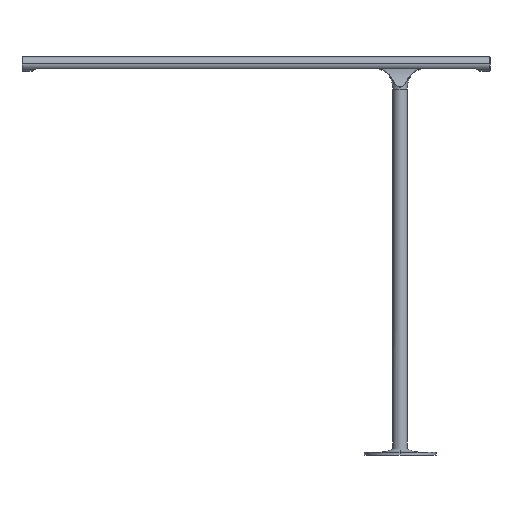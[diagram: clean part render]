
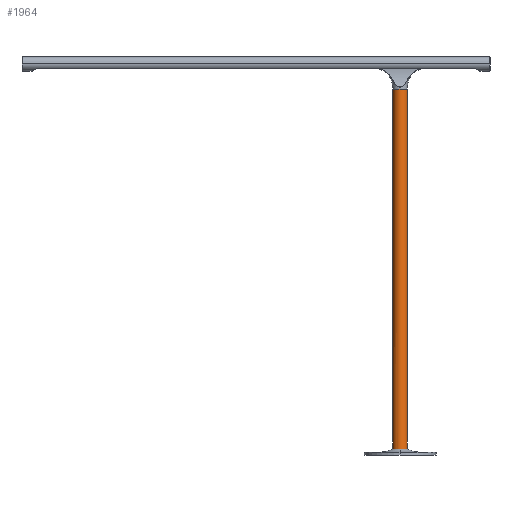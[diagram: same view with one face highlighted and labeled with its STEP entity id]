
A CAD part, top view. The second image highlights one B-rep face of the part: STEP entity #1964.
In plain terms, the highlighted cylindrical face has radius 8 mm (diameter 16 mm), a partial arc.
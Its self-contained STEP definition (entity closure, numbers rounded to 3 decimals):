
#19 = EDGE_CURVE ( 'NONE', #4473, #5512, #605, .T. ) ;
#29 = CARTESIAN_POINT ( 'NONE',  ( 41.72, 419.5, 5.562 ) ) ;
#181 = EDGE_CURVE ( 'NONE', #4473, #6148, #1132, .T. ) ;
#336 = CIRCLE ( 'NONE', #1421, 8. ) ;
#367 = CARTESIAN_POINT ( 'NONE',  ( 35., 419.5, 8. ) ) ;
#375 = CARTESIAN_POINT ( 'NONE',  ( 28.603, 419.5, 4.916 ) ) ;
#383 = DIRECTION ( 'NONE',  ( 0., 0., 1. ) ) ;
#412 = VERTEX_POINT ( 'NONE', #2453 ) ;
#479 = CARTESIAN_POINT ( 'NONE',  ( 27., 427.127, 0. ) ) ;
#547 = EDGE_CURVE ( 'NONE', #412, #2391, #336, .T. ) ;
#582 = VECTOR ( 'NONE', #1124, 1000. ) ;
#605 = B_SPLINE_CURVE_WITH_KNOTS ( 'NONE', 3,
 ( #367, #4054, #5083, #3589, #4115, #375, #6155, #1491, #5645, #6107 ),
 .UNSPECIFIED., .F., .F.,
 ( 4, 2, 2, 2, 4 ),
 ( 0., 0.125, 0.25, 0.375, 0.5 ),
 .UNSPECIFIED. ) ;
#614 = CARTESIAN_POINT ( 'NONE',  ( 35., 427.127, 0. ) ) ;
#657 = ORIENTED_EDGE ( 'NONE', *, *, #547, .F. ) ;
#1124 = DIRECTION ( 'NONE',  ( 0., -1., 0. ) ) ;
#1132 = B_SPLINE_CURVE_WITH_KNOTS ( 'NONE', 3,
 ( #2030, #4148, #29, #4212, #6366, #3139, #6307, #4733 ),
 .UNSPECIFIED., .F., .F.,
 ( 4, 1, 1, 1, 1, 4 ),
 ( 0.75, 0.95, 0.963, 0.975, 0.988, 1. ),
 .UNSPECIFIED. ) ;
#1199 = CARTESIAN_POINT ( 'NONE',  ( 35., 419.5, 8. ) ) ;
#1265 = DIRECTION ( 'NONE',  ( 0., -1., 0. ) ) ;
#1268 = DIRECTION ( 'NONE',  ( 1., 0., 0. ) ) ;
#1421 = AXIS2_PLACEMENT_3D ( 'NONE', #4600, #4128, #383 ) ;
#1491 = CARTESIAN_POINT ( 'NONE',  ( 27.208, 419.5, 2.094 ) ) ;
#1829 = DIRECTION ( 'NONE',  ( 0., 0., 1. ) ) ;
#1964 = ADVANCED_FACE ( 'NONE', ( #3211 ), #4859, .T. ) ;
#2030 = CARTESIAN_POINT ( 'NONE',  ( 35., 419.5, 8. ) ) ;
#2088 = LINE ( 'NONE', #5501, #3482 ) ;
#2094 = ORIENTED_EDGE ( 'NONE', *, *, #3653, .F. ) ;
#2391 = VERTEX_POINT ( 'NONE', #3655 ) ;
#2427 = DIRECTION ( 'NONE',  ( 0., -1., 0. ) ) ;
#2453 = CARTESIAN_POINT ( 'NONE',  ( 43., 19.5, 0. ) ) ;
#2837 = AXIS2_PLACEMENT_3D ( 'NONE', #3428, #1265, #1829 ) ;
#3139 = CARTESIAN_POINT ( 'NONE',  ( 42.982, 419.5, 0.658 ) ) ;
#3191 = ORIENTED_EDGE ( 'NONE', *, *, #181, .F. ) ;
#3211 = FACE_OUTER_BOUND ( 'NONE', #5467, .T. ) ;
#3428 = CARTESIAN_POINT ( 'NONE',  ( 35., 19.5, 0. ) ) ;
#3482 = VECTOR ( 'NONE', #2427, 1000. ) ;
#3589 = CARTESIAN_POINT ( 'NONE',  ( 30.971, 419.5, 6.99 ) ) ;
#3653 = EDGE_CURVE ( 'NONE', #2391, #6215, #4204, .T. ) ;
#3655 = CARTESIAN_POINT ( 'NONE',  ( 35., 19.5, 8. ) ) ;
#3790 = DIRECTION ( 'NONE',  ( 0., -1., 0. ) ) ;
#3798 = AXIS2_PLACEMENT_3D ( 'NONE', #614, #3790, #1268 ) ;
#4054 = CARTESIAN_POINT ( 'NONE',  ( 33.953, 419.5, 8. ) ) ;
#4115 = CARTESIAN_POINT ( 'NONE',  ( 30.084, 419.5, 6.397 ) ) ;
#4128 = DIRECTION ( 'NONE',  ( 0., -1., 0. ) ) ;
#4148 = CARTESIAN_POINT ( 'NONE',  ( 38.532, 419.5, 8. ) ) ;
#4204 = CIRCLE ( 'NONE', #2837, 8. ) ;
#4212 = CARTESIAN_POINT ( 'NONE',  ( 42.775, 419.5, 1.925 ) ) ;
#4290 = ORIENTED_EDGE ( 'NONE', *, *, #5923, .F. ) ;
#4463 = CARTESIAN_POINT ( 'NONE',  ( 27., 19.5, 0. ) ) ;
#4473 = VERTEX_POINT ( 'NONE', #1199 ) ;
#4569 = ORIENTED_EDGE ( 'NONE', *, *, #19, .T. ) ;
#4600 = CARTESIAN_POINT ( 'NONE',  ( 35., 19.5, 0. ) ) ;
#4733 = CARTESIAN_POINT ( 'NONE',  ( 43., 419.5, 0. ) ) ;
#4859 = CYLINDRICAL_SURFACE ( 'NONE', #3798, 8. ) ;
#4908 = CARTESIAN_POINT ( 'NONE',  ( 27., 419.5, 0. ) ) ;
#5083 = CARTESIAN_POINT ( 'NONE',  ( 32.906, 419.5, 7.792 ) ) ;
#5467 = EDGE_LOOP ( 'NONE', ( #4569, #6693, #2094, #657, #4290, #3191 ) ) ;
#5501 = CARTESIAN_POINT ( 'NONE',  ( 43., 427.127, 0. ) ) ;
#5512 = VERTEX_POINT ( 'NONE', #4908 ) ;
#5645 = CARTESIAN_POINT ( 'NONE',  ( 27., 419.5, 1.047 ) ) ;
#5923 = EDGE_CURVE ( 'NONE', #6148, #412, #2088, .T. ) ;
#6107 = CARTESIAN_POINT ( 'NONE',  ( 27., 419.5, 0. ) ) ;
#6148 = VERTEX_POINT ( 'NONE', #6647 ) ;
#6155 = CARTESIAN_POINT ( 'NONE',  ( 28.01, 419.5, 4.029 ) ) ;
#6215 = VERTEX_POINT ( 'NONE', #4463 ) ;
#6307 = CARTESIAN_POINT ( 'NONE',  ( 43., 419.5, 0.221 ) ) ;
#6366 = CARTESIAN_POINT ( 'NONE',  ( 42.903, 419.5, 1.3 ) ) ;
#6417 = EDGE_CURVE ( 'NONE', #5512, #6215, #6512, .T. ) ;
#6512 = LINE ( 'NONE', #479, #582 ) ;
#6647 = CARTESIAN_POINT ( 'NONE',  ( 43., 419.5, 0. ) ) ;
#6693 = ORIENTED_EDGE ( 'NONE', *, *, #6417, .T. ) ;
